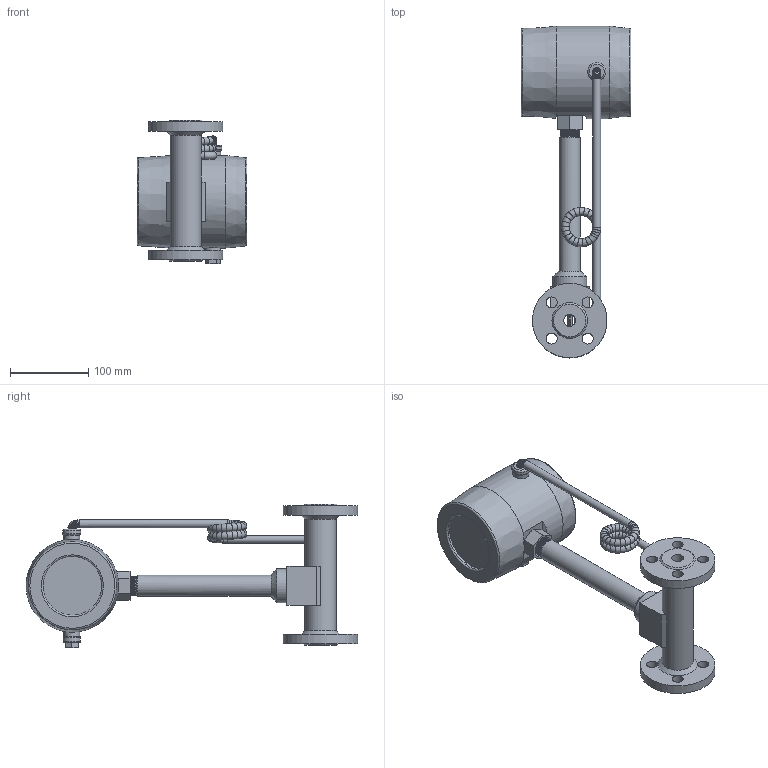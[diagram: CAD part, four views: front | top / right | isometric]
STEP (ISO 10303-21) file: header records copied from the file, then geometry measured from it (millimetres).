
FILE_DESCRIPTION( (''), '2;1');
FILE_NAME( 'QWKA_DN15_flange.step', '2023-03-29T10:24:30+08:00', (''), (''), '', '', '');
FILE_SCHEMA (('CONFIG_CONTROL_DESIGN'));
Length unit declared in the file: millimetre
Products named in the file (4): QWKA flange 01; QWKA flange 02; QWKA flange 04; QWKA DN15_flange
Assembly tree (3 placements, depth 2):
  QWKA DN15_flange
    QWKA flange 04
    QWKA flange 02
    QWKA flange 01
Bounding box: 140 x 423 x 183 mm (x, y, z)
Volume: 1960520.5 mm3; surface area: 209973.6 mm2
Topology: 3 solids, 3 shells, 229 faces, 576 edges, 371 vertices
Faces by surface type: torus 89, plane 63, cylinder 44, cone 28, bspline 5
Full cylindrical faces by diameter (mm): 4.2 x4, 6 x4, 9 x1, 10 x4, 14 x8, 15 x1, 19 x1, 20 x3, 22 x1, 23 x1, 27 x1, 28 x1, 40 x2, 43 x1, 75 x1, 95 x2, 118 x1
Entity records: 13966 total; most frequent: CARTESIAN_POINT 8773, DIRECTION 963, ORIENTED_EDGE 876, AXIS2_PLACEMENT_3D 446, EDGE_CURVE 438, EDGE_LOOP 372, VERTEX_POINT 338, FACE_BOUND 266
